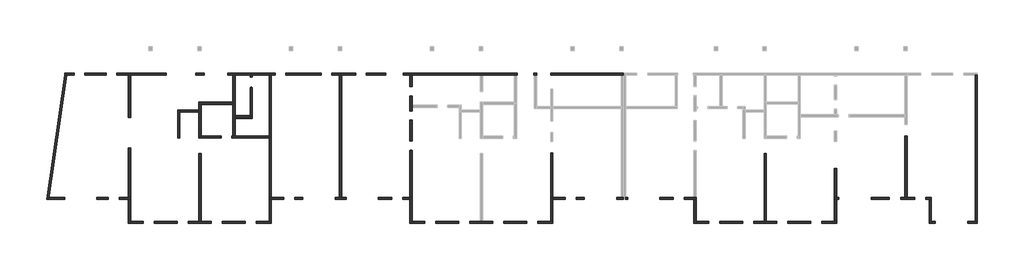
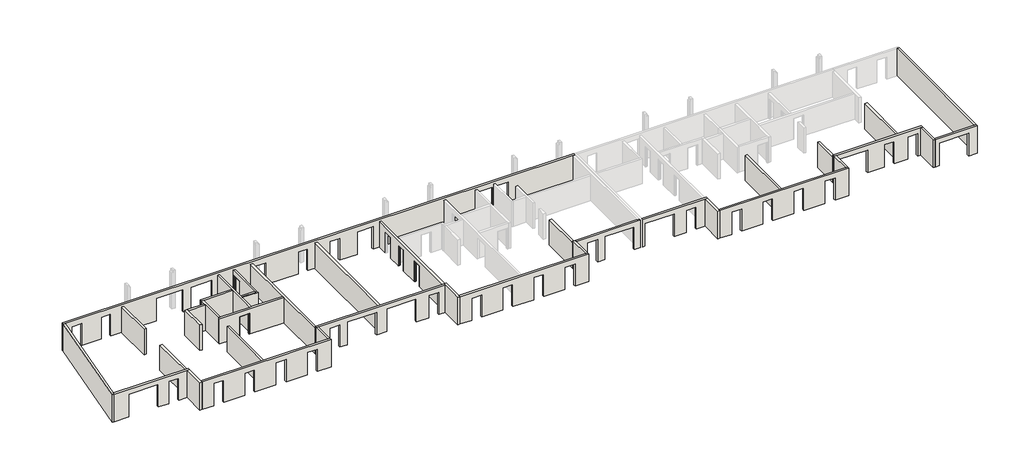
# One storey, part 1 of 2: 38 walls, 4 doors.
"""IFC4 building model written with IfcOpenShell, lengths in millimetres."""

import ifcopenshell
import ifcopenshell.guid

model = None  # the IFC model being written
_history = None  # IfcOwnerHistory: only IFC2X3 demands one
_inside = {}  # id of a spatial element -> (the spatial element, [elements in it])
_under = {}  # id of a project, library or spatial element -> (it, [spatial elements below it])
_declared = {}  # id of a project -> (the project, [libraries it declares])
_typed = {}  # id of a type object -> (the type object, [elements of that type])
_made_of = {}  # id of a material, layer set ... -> (it, [elements and type objects made of it])


def new_model(schema):
    """Start an empty IFC model of exactly this schema.

    Asked for "IFC4X3", IfcOpenShell would pick the latest addendum, in which some entities
    have other attributes; the version numbers below select the first issue.
    IFC2X3 requires an IfcOwnerHistory on every rooted entity: one is made here for all.
    """
    global model, _history
    if schema == "IFC4X3":
        model = ifcopenshell.file(schema_version=(4, 3, 0, 0))
    else:
        model = ifcopenshell.file(schema=schema)
    _inside.clear()
    _under.clear()
    _declared.clear()
    _typed.clear()
    _made_of.clear()
    _history = None
    if model.schema == "IFC2X3":
        org = make("IfcOrganization", Name="unknown")
        user = make(
            "IfcPersonAndOrganization",
            ThePerson=make("IfcPerson", FamilyName="unknown"),
            TheOrganization=org,
        )
        app = make(
            "IfcApplication",
            ApplicationDeveloper=org,
            Version="unknown",
            ApplicationFullName="unknown",
            ApplicationIdentifier="unknown",
        )
        _history = make(
            "IfcOwnerHistory",
            OwningUser=user,
            OwningApplication=app,
            ChangeAction="ADDED",
            CreationDate=0,
        )
    return model


def make(cls, **values):
    """One entity of the class cls with the attributes given. An attribute that is None is left unset."""
    return model.create_entity(
        cls, **{name: value for name, value in values.items() if value is not None}
    )


def rooted(cls, **values):
    """An entity with a GlobalId (a new one), such as an element, a storey or a relation."""
    return make(cls, GlobalId=ifcopenshell.guid.new(), OwnerHistory=_history, **values)


def si_unit(unit_type, name, prefix=None):
    """IfcSIUnit, for example si_unit("LENGTHUNIT", "METRE", prefix="MILLI")."""
    return make("IfcSIUnit", UnitType=unit_type, Prefix=prefix, Name=name)


def assignment(units):
    """IfcUnitAssignment: the units of a project."""
    return None if units is None else make("IfcUnitAssignment", Units=units)


def point(xyz):
    """IfcCartesianPoint."""
    return None if xyz is None else make("IfcCartesianPoint", Coordinates=xyz)


def direction(xyz):
    """IfcDirection."""
    return None if xyz is None else make("IfcDirection", DirectionRatios=xyz)


def frame(location, z_axis=None, x_axis=None):
    """IfcAxis2Placement3D, a coordinate frame: its origin and axes. An axis left out is left unset."""
    return make(
        "IfcAxis2Placement3D",
        Location=point(location),
        Axis=direction(z_axis),
        RefDirection=direction(x_axis),
    )


def origin():
    """The frame at (0, 0, 0) with its axes left unset."""
    return frame((0.0, 0.0, 0.0))


def origin_with_axes():
    """The frame at (0, 0, 0) with the z axis (0, 0, 1) and the x axis (1, 0, 0) written out."""
    return frame((0.0, 0.0, 0.0), z_axis=(0.0, 0.0, 1.0), x_axis=(1.0, 0.0, 0.0))


def place(relative_to, where):
    """IfcLocalPlacement: puts the frame where relative to a parent placement (None: the world)."""
    return make(
        "IfcLocalPlacement", PlacementRelTo=relative_to, RelativePlacement=where
    )


def context(
    kind, dimensions, precision=None, world=None, true_north=None, identifier=None
):
    """IfcGeometricRepresentationContext, for example the 3D "Model" context."""
    return make(
        "IfcGeometricRepresentationContext",
        ContextIdentifier=identifier,
        ContextType=kind,
        CoordinateSpaceDimension=dimensions,
        Precision=precision,
        WorldCoordinateSystem=world,
        TrueNorth=true_north,
    )


def project(units=None, contexts=None):
    """IfcProject with its units and contexts."""
    return rooted(
        "IfcProject",
        Name="project",
        RepresentationContexts=contexts,
        UnitsInContext=assignment(units),
    )


def spatial(cls, under=None, at=None, **own):
    """A site, building, storey or space (cls), placed at a placement, below another one or the project."""
    s = rooted(cls, ObjectPlacement=at, **own)
    if under is not None:
        _under.setdefault(under.id(), (under, []))[1].append(s)
    return s


def polyline(points):
    """IfcPolyline through the points."""
    return make("IfcPolyline", Points=[point(p) for p in points])


def outline(outer, holes=None, kind="AREA"):
    """IfcArbitraryClosedProfileDef: a profile drawn as a closed curve; with holes, ...WithVoids."""
    if holes is None:
        return make("IfcArbitraryClosedProfileDef", ProfileType=kind, OuterCurve=outer)
    return make(
        "IfcArbitraryProfileDefWithVoids",
        ProfileType=kind,
        OuterCurve=outer,
        InnerCurves=holes,
    )


def extrude(swept, where, along, depth):
    """IfcExtrudedAreaSolid: the profile swept, set in the frame where, extruded along a direction by depth."""
    return make(
        "IfcExtrudedAreaSolid",
        SweptArea=swept,
        Position=where,
        ExtrudedDirection=direction(along),
        Depth=depth,
    )


def faces_of(points, faces, orient=None, outer=None):
    """IfcFace entities. A face is a list of loops; a loop is a list of indices into points, from 0.

    orient and outer hold one flag for each loop. By default every Orientation is true, the
    first loop of a face is its IfcFaceOuterBound and the others are IfcFaceBound.
    """
    made = []
    for i, loops in enumerate(faces):
        bounds = []
        for j, loop in enumerate(loops):
            is_outer = j == 0 if outer is None else outer[i][j]
            bounds.append(
                make(
                    "IfcFaceOuterBound" if is_outer else "IfcFaceBound",
                    Bound=make("IfcPolyLoop", Polygon=[points[k] for k in loop]),
                    Orientation=True if orient is None else orient[i][j],
                )
            )
        made.append(make("IfcFace", Bounds=bounds))
    return made


def faceted_brep(points, faces, orient=None, outer=None, voids=None):
    """IfcFacetedBrep: a solid bounded by flat faces; with voids (closed shells), ...WithVoids."""
    shared = [point(p) for p in points]
    hull = make("IfcClosedShell", CfsFaces=faces_of(shared, faces, orient, outer))
    if voids is None:
        return make("IfcFacetedBrep", Outer=hull)
    return make(
        "IfcFacetedBrepWithVoids",
        Outer=hull,
        Voids=[
            make(cls, CfsFaces=faces_of(shared, fs, o, b)) for cls, fs, o, b in voids
        ],
    )


def shape(context_of_items, identifier, shape_type, items):
    """IfcShapeRepresentation: the items that make up one representation, for example the "Body"."""
    return make(
        "IfcShapeRepresentation",
        ContextOfItems=context_of_items,
        RepresentationIdentifier=identifier,
        RepresentationType=shape_type,
        Items=items,
    )


def source(mapping_origin, context_of_items, identifier, shape_type, items):
    """IfcRepresentationMap: a shape defined once, which mapped items show again and again."""
    return make(
        "IfcRepresentationMap",
        MappingOrigin=mapping_origin,
        MappedRepresentation=shape(context_of_items, identifier, shape_type, items),
    )


def transform(
    local_origin,
    x_axis=None,
    y_axis=None,
    z_axis=None,
    scale=None,
    scale2=None,
    scale3=None,
    uniform=True,
):
    """IfcCartesianTransformationOperator3D, or its non-uniform kind. x_axis, y_axis, z_axis: its Axis1, 2, 3."""
    if uniform:
        return make(
            "IfcCartesianTransformationOperator3D",
            Axis1=direction(x_axis),
            Axis2=direction(y_axis),
            LocalOrigin=point(local_origin),
            Scale=scale,
            Axis3=direction(z_axis),
        )
    return make(
        "IfcCartesianTransformationOperator3DnonUniform",
        Axis1=direction(x_axis),
        Axis2=direction(y_axis),
        LocalOrigin=point(local_origin),
        Scale=scale,
        Axis3=direction(z_axis),
        Scale2=scale2,
        Scale3=scale3,
    )


def mapped(mapping_source, mapping_target):
    """IfcMappedItem: shows the shape of a source again, moved by a transform."""
    return make(
        "IfcMappedItem", MappingSource=mapping_source, MappingTarget=mapping_target
    )


def made_of(thing, what):
    """Note that an element or type object is made of a material, layer set ...; save() writes the relation."""
    if what is not None:
        _made_of.setdefault(what.id(), (what, []))[1].append(thing)
    return thing


def element(
    cls,
    number,
    at=None,
    inside=None,
    cuts=None,
    type_object=None,
    material=None,
    context=None,
    identifier="Body",
    shape_type=None,
    held_by="IfcProductDefinitionShape",
    body=None,
    shapes=None,
    **own,
):
    """One element of the class cls, such as IfcWall. Its Tag is "e" and its number.

    at: its placement. inside: the storey or other place that contains it. cuts: it is an
    opening in that element (IfcRelVoidsElement). A single representation is given by context,
    identifier, shape_type and body (its items); several are given by shapes. held_by: the class
    of the entity that holds the representations. save() writes the other relations.
    """
    e = rooted(cls, Tag="e%d" % number, ObjectPlacement=at, **own)
    if body is not None:
        shapes = [shape(context, identifier, shape_type, body)]
    if shapes is not None:
        e.Representation = make(held_by, Representations=shapes)
    if inside is not None:
        _inside.setdefault(inside.id(), (inside, []))[1].append(e)
    if cuts is not None:
        rooted(
            "IfcRelVoidsElement", RelatingBuildingElement=cuts, RelatedOpeningElement=e
        )
    if type_object is not None:
        _typed.setdefault(type_object.id(), (type_object, []))[1].append(e)
    return made_of(e, material)


def aggregate(whole, parts):
    """IfcRelAggregates: a whole, such as a stair, and the parts it consists of."""
    return rooted("IfcRelAggregates", RelatingObject=whole, RelatedObjects=parts)


def save(model, path):
    """Write the relations noted so far, then the file.

    IfcRelAggregates (storeys below a building ...), IfcRelContainedInSpatialStructure (elements
    in a storey), IfcRelDefinesByType, IfcRelAssociatesMaterial and IfcRelDeclares: one each for
    every whole, place, type object, material and project.
    """
    for whole, parts in _under.values():
        aggregate(whole, parts)
    for where, things in _inside.values():
        rooted(
            "IfcRelContainedInSpatialStructure",
            RelatedElements=things,
            RelatingStructure=where,
        )
    for kind, things in _typed.values():
        rooted("IfcRelDefinesByType", RelatedObjects=things, RelatingType=kind)
    for what, things in _made_of.values():
        rooted("IfcRelAssociatesMaterial", RelatedObjects=things, RelatingMaterial=what)
    for by, libraries in _declared.values():
        rooted("IfcRelDeclares", RelatingContext=by, RelatedDefinitions=libraries)
    model.write(path)


def door_48b161e2(model_context):
    return source(origin(), model_context, "Body", "Brep", [
        faceted_brep([(391.8113433, 100.0, 0.0), (406.8113433, 100.0, 0.0), (406.8113433, -100.0, 0.0), (391.8113433, -100.0, 0.0), (391.8113433, -26.2, 0.0), (376.8113433, -26.2, 0.0), (376.8113433, 26.2, 0.0), (391.8113433, 26.2, 0.0), (391.8113433, 100.0, 2020.0), (-408.1886567, 100.0, 2020.0), (-408.1886567, 100.0, 0.0), (-423.1886567, 100.0, 0.0), (-423.1886567, 100.0, 2035.0), (406.8113433, 100.0, 2035.0), (406.8113433, -100.0, 2035.0), (-423.1886567, -100.0, 2035.0), (-423.1886567, -100.0, 0.0), (-408.1886567, -100.0, 0.0), (-408.1886567, -100.0, 2020.0), (391.8113433, -100.0, 2020.0), (391.8113433, -26.2, 2020.0), (-408.1886567, -26.2, 2020.0), (-408.1886567, -26.2, 0.0), (-393.1886567, -26.2, 0.0), (-393.1886567, -26.2, 2005.0), (376.8113433, -26.2, 2005.0), (376.8113433, 26.2, 2005.0), (-393.1886567, 26.2, 2005.0), (-393.1886567, 26.2, 0.0), (-408.1886567, 26.2, 0.0), (-408.1886567, 26.2, 2020.0), (391.8113433, 26.2, 2020.0)], [[[0, 1, 2, 3, 4, 5, 6, 7]], [[1, 0, 8, 9, 10, 11, 12, 13]], [[2, 1, 13, 14]], [[3, 2, 14, 15, 16, 17, 18, 19]], [[4, 3, 19, 20]], [[5, 4, 20, 21, 22, 23, 24, 25]], [[6, 5, 25, 26]], [[7, 6, 26, 27, 28, 29, 30, 31]], [[0, 7, 31, 8]], [[9, 30, 29, 10]], [[10, 29, 28, 23, 22, 17, 16, 11]], [[15, 12, 11, 16]], [[21, 18, 17, 22]], [[27, 24, 23, 28]], [[14, 13, 12, 15]], [[26, 25, 24, 27]], [[20, 19, 18, 21]], [[8, 31, 30, 9]]]),
    ])


def door_a0d7bfd5(model_context):
    return source(origin(), model_context, "Body", "Brep", [
        faceted_brep([(441.8113433, 90.0, 0.0), (456.8113433, 90.0, 0.0), (456.8113433, -90.0, 0.0), (441.8113433, -90.0, 0.0), (441.8113433, -26.2, 0.0), (426.8113433, -26.2, 0.0), (426.8113433, 26.2, 0.0), (441.8113433, 26.2, 0.0), (441.8113433, 90.0, 2020.0), (-458.1886567, 90.0, 2020.0), (-458.1886567, 90.0, 0.0), (-473.1886567, 90.0, 0.0), (-473.1886567, 90.0, 2035.0), (456.8113433, 90.0, 2035.0), (456.8113433, -90.0, 2035.0), (-473.1886567, -90.0, 2035.0), (-473.1886567, -90.0, 0.0), (-458.1886567, -90.0, 0.0), (-458.1886567, -90.0, 2020.0), (441.8113433, -90.0, 2020.0), (441.8113433, -26.2, 2020.0), (-458.1886567, -26.2, 2020.0), (-458.1886567, -26.2, 0.0), (-443.1886567, -26.2, 0.0), (-443.1886567, -26.2, 2005.0), (426.8113433, -26.2, 2005.0), (426.8113433, 26.2, 2005.0), (-443.1886567, 26.2, 2005.0), (-443.1886567, 26.2, 0.0), (-458.1886567, 26.2, 0.0), (-458.1886567, 26.2, 2020.0), (441.8113433, 26.2, 2020.0)], [[[0, 1, 2, 3, 4, 5, 6, 7]], [[1, 0, 8, 9, 10, 11, 12, 13]], [[2, 1, 13, 14]], [[3, 2, 14, 15, 16, 17, 18, 19]], [[4, 3, 19, 20]], [[5, 4, 20, 21, 22, 23, 24, 25]], [[6, 5, 25, 26]], [[7, 6, 26, 27, 28, 29, 30, 31]], [[0, 7, 31, 8]], [[9, 30, 29, 10]], [[10, 29, 28, 23, 22, 17, 16, 11]], [[15, 12, 11, 16]], [[21, 18, 17, 22]], [[27, 24, 23, 28]], [[14, 13, 12, 15]], [[26, 25, 24, 27]], [[20, 19, 18, 21]], [[8, 31, 30, 9]]]),
    ])


model = new_model("IFC4")

# Units and contexts
model_context = context("Model", 3, world=origin())
ifc_project = project(units=[si_unit("LENGTHUNIT", "METRE", prefix="MILLI")], contexts=[model_context])

# Site, building, storey
site = spatial("IfcSite", under=ifc_project)
building = spatial("IfcBuilding", under=site)
storey = spatial("IfcBuildingStorey", under=building, Name="Niv RdC-F", Elevation=0.0)

# Doors
placement = place(None, origin())
door_shape = door_48b161e2(model_context)
element("IfcDoor", 1, ObjectType="FREYS HUISSERIE A BANCHER : FREYS 83*2.035", at=placement, inside=storey, context=model_context, shape_type="MappedRepresentation", body=[
    mapped(door_shape, transform((-535.4687207, 2788.1542132, 0.0), x_axis=(0.0, -1.0, 0.0), y_axis=(1.0, 0.0, 0.0), z_axis=(0.0, 0.0, 1.0))),
])
element("IfcDoor", 2, ObjectType="FREYS HUISSERIE A BANCHER : FREYS 83*2.035", at=placement, inside=storey, context=model_context, shape_type="MappedRepresentation", body=[
    mapped(door_shape, transform((-535.4687207, 211.1107168, 0.0), x_axis=(0.0, -1.0, 0.0), y_axis=(1.0, 0.0, 0.0), z_axis=(0.0, 0.0, 1.0))),
])
door_2_shape = door_a0d7bfd5(model_context)
element("IfcDoor", 3, ObjectType="FREYS HUISSERIE A BANCHER : FREYS 93*2.035", at=placement, inside=storey, context=model_context, shape_type="MappedRepresentation", body=[
    mapped(door_2_shape, transform((-16267.2536997, 956.3702418, 0.0), x_axis=(1.0, 0.0, 0.0), y_axis=(0.0, 1.0, 0.0), z_axis=(0.0, 0.0, 1.0))),
])
element("IfcDoor", 4, ObjectType="FREYS HUISSERIE A BANCHER : FREYS 93*2.035", at=placement, inside=storey, context=model_context, shape_type="MappedRepresentation", body=[
    mapped(door_2_shape, transform((-14155.4977868, 5649.707503, 0.0), x_axis=(0.0, 1.0, 0.0), y_axis=(-1.0, 0.0, 0.0), z_axis=(0.0, 0.0, 1.0))),
])

# Walls
element("IfcWall", 5, ObjectType="FREYS voile BA C25/30 ep=20 INT", at=placement, inside=storey, context=model_context, shape_type="SweptSolid", body=[
    extrude(outline(polyline([(29564.5058748, -6223.682253), (29564.5058748, -433.6571301), (29764.5058748, -433.6571301), (29764.5058748, -6223.682253), (29564.5058748, -6223.682253)])), origin_with_axes(), (0.0, 0.0, 1.0), 2500.0),
])
element("IfcWall", 6, ObjectType="FREYS voile BA C25/30 ep=20 INT", at=placement, inside=storey, context=model_context, shape_type="SweptSolid", body=[
    extrude(outline(polyline([(41564.5566776, -4173.6837353), (41564.5566776, 1056.3989108), (41764.5566776, 1056.3989108), (41764.5566776, -4173.6837353), (41564.5566776, -4173.6837353)])), origin_with_axes(), (0.0, 0.0, 1.0), 2500.0),
])
element("IfcWall", 7, ObjectType="FREYS voile BA C25/30 ep=20 INT", at=placement, inside=storey, context=model_context, shape_type="SweptSolid", body=[
    extrude(outline(polyline([(-24635.4687207, 2606.324852), (-24635.4687207, 6246.3702418), (-24435.4687207, 6246.3702418), (-24435.4687207, 2606.324852), (-24635.4687207, 2606.324852)])), origin_with_axes(), (0.0, 0.0, 1.0), 2500.0),
])
element("IfcWall", 8, ObjectType="FREYS voile BA C25/30 ep=18 EXT", at=placement, inside=storey, context=model_context, shape_type="Brep", body=[
    faceted_brep([(-30063.034009, 6246.3702418, 0.0), (-31609.8766701, -4353.6571231, 0.0), (-31609.8766701, -4353.6571231, 2700.0), (-30063.034009, 6246.3702418, 2700.0), (-29881.1275521, 6246.3702418, 0.0), (-29881.1275521, 6246.3702418, 2700.0), (-31401.7031415, -4173.6571231, 2700.0), (-31427.9702133, -4353.6571231, 2700.0), (-31427.9702133, -4353.6571231, 0.0), (-31401.7031415, -4173.6571231, 0.0)], [[[0, 1, 2, 3]], [[4, 5, 6, 7, 8, 9]], [[1, 0, 4, 9, 8]], [[3, 2, 7, 6, 5]], [[0, 3, 5, 4]], [[2, 1, 8, 7]]]),
])
element("IfcWall", 9, ObjectType="FREYS voile BA C25/30 ep=18 EXT", at=placement, inside=storey, context=model_context, shape_type="Brep", body=[
    faceted_brep([(-27315.4431946, -4353.6571231, 2230.0), (-27315.4431946, -4353.6571231, 0.0), (-26355.4431946, -4353.6571231, 0.0), (-26355.4431946, -4353.6571231, 2180.0), (-25415.4431946, -4353.6571231, 2180.0), (-25415.4431946, -4353.6571231, 0.0), (-24635.4687207, -4353.6571231, 0.0), (-24435.4687207, -4353.6571231, 0.0), (-24435.4687207, -4353.6571231, 2700.0), (-24635.4687207, -4353.6571231, 2700.0), (-31427.9702133, -4353.6571231, 2700.0), (-31427.9702133, -4353.6571231, 0.0), (-30055.4431946, -4353.6571231, 0.0), (-30055.4431946, -4353.6571231, 2230.0), (-26355.4431946, -4173.6571231, 0.0), (-27315.4431946, -4173.6571231, 0.0), (-27315.4431946, -4173.6571231, 2230.0), (-30055.4431946, -4173.6571231, 2230.0), (-30055.4431946, -4173.6571231, 0.0), (-31401.7031415, -4173.6571231, 0.0), (-31401.7031415, -4173.6571231, 2700.0), (-24435.4687207, -4173.6571231, 2700.0), (-24435.4687207, -4173.6571231, 2500.0), (-24435.4687207, -4173.6571231, 0.0), (-24635.4687207, -4173.6571231, 0.0), (-25415.4431946, -4173.6571231, 0.0), (-25415.4431946, -4173.6571231, 2180.0), (-26355.4431946, -4173.6571231, 2180.0)], [[[0, 1, 2, 3, 4, 5, 6, 7, 8, 9, 10, 11, 12, 13]], [[14, 15, 16, 17, 18, 19, 20, 21, 22, 23, 24, 25, 26, 27]], [[12, 11, 19, 18]], [[2, 1, 15, 14]], [[23, 7, 6, 5, 25, 24]], [[10, 9, 8, 21, 20]], [[11, 10, 20, 19]], [[27, 3, 2, 14]], [[4, 26, 25, 5]], [[3, 27, 26, 4]], [[18, 17, 13, 12]], [[16, 15, 1, 0]], [[17, 16, 0, 13]], [[7, 23, 22, 21, 8]]]),
])
element("IfcWall", 10, ObjectType="FREYS voile BA C25/30 ep=18 EXT", at=placement, inside=storey, context=model_context, shape_type="Brep", body=[
    faceted_brep([(-12435.4687207, -6403.661173, 2700.0), (-24435.4687207, -6403.661173, 2700.0), (-24435.4687207, -6403.661173, 0.0), (-23357.0301017, -6403.661173, 0.0), (-23357.0301017, -6403.661173, 2180.0), (-22417.0301017, -6403.661173, 2180.0), (-22417.0301017, -6403.661173, 0.0), (-20457.0301016, -6403.661173, 0.0), (-20457.0301016, -6403.661173, 2180.0), (-19517.0301016, -6403.661173, 2180.0), (-19517.0301016, -6403.661173, 0.0), (-17557.0301112, -6403.661173, 0.0), (-17557.0301112, -6403.661173, 2180.0), (-16617.0301112, -6403.661173, 2180.0), (-16617.0301112, -6403.661173, 0.0), (-14657.0301131, -6403.661173, 0.0), (-14657.0301131, -6403.661173, 2180.0), (-13717.0301131, -6403.661173, 2180.0), (-13717.0301131, -6403.661173, 0.0), (-12435.4687207, -6403.661173, 0.0), (-24435.4687207, -6223.661173, 2700.0), (-12635.4687207, -6223.661173, 2700.0), (-12435.4687207, -6223.661173, 2700.0), (-12435.4687207, -6223.661173, 0.0), (-12635.4687207, -6223.661173, 0.0), (-13717.0301131, -6223.661173, 0.0), (-13717.0301131, -6223.661173, 2180.0), (-14657.0301131, -6223.661173, 2180.0), (-14657.0301131, -6223.661173, 0.0), (-16617.0301112, -6223.661173, 0.0), (-16617.0301112, -6223.661173, 2180.0), (-17557.0301112, -6223.661173, 2180.0), (-17557.0301112, -6223.661173, 0.0), (-18435.4942293, -6223.661173, 0.0), (-18635.4942293, -6223.661173, 0.0), (-19517.0301016, -6223.661173, 0.0), (-19517.0301016, -6223.661173, 2180.0), (-20457.0301016, -6223.661173, 2180.0), (-20457.0301016, -6223.661173, 0.0), (-22417.0301017, -6223.661173, 0.0), (-22417.0301017, -6223.661173, 2180.0), (-23357.0301017, -6223.661173, 2180.0), (-23357.0301017, -6223.661173, 0.0), (-24435.4687207, -6223.661173, 0.0)], [[[0, 1, 2, 3, 4, 5, 6, 7, 8, 9, 10, 11, 12, 13, 14, 15, 16, 17, 18, 19]], [[20, 21, 22, 23, 24, 25, 26, 27, 28, 29, 30, 31, 32, 33, 34, 35, 36, 37, 38, 39, 40, 41, 42, 43]], [[2, 43, 42, 3]], [[23, 19, 18, 25, 24]], [[6, 39, 38, 7]], [[10, 35, 34, 33, 32, 11]], [[14, 29, 28, 15]], [[1, 0, 22, 21, 20]], [[2, 1, 20, 43]], [[0, 19, 23, 22]], [[5, 40, 39, 6]], [[41, 4, 3, 42]], [[40, 5, 4, 41]], [[9, 36, 35, 10]], [[37, 8, 7, 38]], [[36, 9, 8, 37]], [[31, 12, 11, 32]], [[13, 30, 29, 14]], [[12, 31, 30, 13]], [[17, 26, 25, 18]], [[27, 16, 15, 28]], [[26, 17, 16, 27]]]),
])
element("IfcWall", 11, ObjectType="FREYS voile BA C25/30 ep=18 EXT", at=placement, inside=storey, context=model_context, shape_type="Brep", body=[
    faceted_brep([(-10445.443697, -4353.6823111, 0.0), (-9755.4434502, -4353.6823111, 0.0), (-9755.4434502, -4353.6823111, 2230.0), (-7015.4434502, -4353.6823111, 2230.0), (-7015.4434502, -4353.6823111, 0.0), (-6055.4431946, -4353.6823111, 0.0), (-6055.4431946, -4353.6823111, 2230.0), (-3315.4431946, -4353.6823111, 2230.0), (-3315.4431946, -4353.6823111, 0.0), (-2175.4432068, -4353.6823111, 0.0), (-2175.4432068, -4353.6823111, 2180.0), (-1235.4432068, -4353.6823111, 2180.0), (-1235.4432068, -4353.6823111, 0.0), (-635.4687207, -4353.6823111, 0.0), (-635.4687207, -4353.6823111, 2700.0), (-12435.4687207, -4353.6823111, 2700.0), (-12635.4687207, -4353.6823111, 2700.0), (-12635.4687207, -4353.6823111, 0.0), (-12435.4687207, -4353.6823111, 0.0), (-11385.443697, -4353.6823111, 0.0), (-11385.443697, -4353.6823111, 2180.0), (-10445.443697, -4353.6823111, 2180.0), (-9755.4434502, -4173.6823111, 2230.0), (-9755.4434502, -4173.6823111, 0.0), (-10445.443697, -4173.6823111, 0.0), (-10445.443697, -4173.6823111, 2180.0), (-11385.443697, -4173.6823111, 2180.0), (-11385.443697, -4173.6823111, 0.0), (-12435.4687207, -4173.6823111, 0.0), (-12635.4687207, -4173.6823111, 0.0), (-12635.4687207, -4173.6823111, 2500.0), (-12635.4687207, -4173.6823111, 2700.0), (-635.4687207, -4173.6823111, 2700.0), (-635.4687207, -4173.6823111, 0.0), (-1235.4432068, -4173.6823111, 0.0), (-1235.4432068, -4173.6823111, 2180.0), (-2175.4432068, -4173.6823111, 2180.0), (-2175.4432068, -4173.6823111, 0.0), (-3315.4431946, -4173.6823111, 0.0), (-3315.4431946, -4173.6823111, 2230.0), (-6055.4431946, -4173.6823111, 2230.0), (-6055.4431946, -4173.6823111, 0.0), (-6435.4433224, -4173.6823111, 0.0), (-6635.4433224, -4173.6823111, 0.0), (-7015.4434502, -4173.6823111, 0.0), (-7015.4434502, -4173.6823111, 2230.0)], [[[0, 1, 2, 3, 4, 5, 6, 7, 8, 9, 10, 11, 12, 13, 14, 15, 16, 17, 18, 19, 20, 21]], [[22, 23, 24, 25, 26, 27, 28, 29, 30, 31, 32, 33, 34, 35, 36, 37, 38, 39, 40, 41, 42, 43, 44, 45]], [[38, 37, 9, 8]], [[24, 23, 1, 0]], [[44, 43, 42, 41, 5, 4]], [[33, 13, 12, 34]], [[19, 18, 17, 29, 28, 27]], [[16, 15, 14, 32, 31]], [[26, 20, 19, 27]], [[21, 25, 24, 0]], [[20, 26, 25, 21]], [[36, 10, 9, 37]], [[11, 35, 34, 12]], [[10, 36, 35, 11]], [[8, 7, 39, 38]], [[6, 5, 41, 40]], [[7, 6, 40, 39]], [[4, 3, 45, 44]], [[2, 1, 23, 22]], [[3, 2, 22, 45]], [[16, 31, 30, 29, 17]], [[13, 33, 32, 14]]]),
])
element("IfcWall", 12, ObjectType="FREYS voile BA C25/30 ep=18 EXT", at=placement, inside=storey, context=model_context, shape_type="Brep", body=[
    faceted_brep([(11564.5281637, -6403.682546, 2700.0), (-435.4687207, -6403.682546, 2700.0), (-435.4687207, -6403.682546, 0.0), (642.9698985, -6403.682546, 0.0), (642.9698985, -6403.682546, 2180.0), (1582.9698985, -6403.682546, 2180.0), (1582.9698985, -6403.682546, 0.0), (3542.9698986, -6403.682546, 0.0), (3542.9698986, -6403.682546, 2180.0), (4482.9698986, -6403.682546, 2180.0), (4482.9698986, -6403.682546, 0.0), (6442.9698987, -6403.682546, 0.0), (6442.9698987, -6403.682546, 2180.0), (7382.9698987, -6403.682546, 2180.0), (7382.9698987, -6403.682546, 0.0), (9342.9698988, -6403.682546, 0.0), (9342.9698988, -6403.682546, 2180.0), (10282.9698988, -6403.682546, 2180.0), (10282.9698988, -6403.682546, 0.0), (11564.5281637, -6403.682546, 0.0), (-435.4687207, -6223.682546, 2700.0), (11364.5281637, -6223.682546, 2700.0), (11564.5281637, -6223.682546, 2700.0), (11564.5281637, -6223.682546, 0.0), (11364.5281637, -6223.682546, 0.0), (10282.9698988, -6223.682546, 0.0), (10282.9698988, -6223.682546, 2180.0), (9342.9698988, -6223.682546, 2180.0), (9342.9698988, -6223.682546, 0.0), (7382.9698987, -6223.682546, 0.0), (7382.9698987, -6223.682546, 2180.0), (6442.9698987, -6223.682546, 2180.0), (6442.9698987, -6223.682546, 0.0), (5564.5312777, -6223.682546, 0.0), (5364.5312777, -6223.682546, 0.0), (4482.9698986, -6223.682546, 0.0), (4482.9698986, -6223.682546, 2180.0), (3542.9698986, -6223.682546, 2180.0), (3542.9698986, -6223.682546, 0.0), (1582.9698985, -6223.682546, 0.0), (1582.9698985, -6223.682546, 2180.0), (642.9698985, -6223.682546, 2180.0), (642.9698985, -6223.682546, 0.0), (-435.4687207, -6223.682546, 0.0)], [[[0, 1, 2, 3, 4, 5, 6, 7, 8, 9, 10, 11, 12, 13, 14, 15, 16, 17, 18, 19]], [[20, 21, 22, 23, 24, 25, 26, 27, 28, 29, 30, 31, 32, 33, 34, 35, 36, 37, 38, 39, 40, 41, 42, 43]], [[23, 19, 18, 25, 24]], [[3, 2, 43, 42]], [[6, 39, 38, 7]], [[10, 35, 34, 33, 32, 11]], [[14, 29, 28, 15]], [[1, 0, 22, 21, 20]], [[0, 19, 23, 22]], [[41, 4, 3, 42]], [[5, 40, 39, 6]], [[4, 41, 40, 5]], [[37, 8, 7, 38]], [[9, 36, 35, 10]], [[8, 37, 36, 9]], [[31, 12, 11, 32]], [[13, 30, 29, 14]], [[12, 31, 30, 13]], [[27, 16, 15, 28]], [[17, 26, 25, 18]], [[16, 27, 26, 17]], [[2, 1, 20, 43]]]),
])
element("IfcWall", 13, ObjectType="FREYS voile BA C25/30 ep=18 EXT", at=placement, inside=storey, context=model_context, shape_type="Brep", body=[
    faceted_brep([(16984.5565498, -4353.6825564, 2230.0), (16984.5565498, -4353.6825564, 0.0), (17554.5566776, -4353.6825564, 0.0), (17554.5566776, -4353.6825564, 2700.0), (11564.5281637, -4353.6825564, 2700.0), (11564.5281637, -4353.6825564, 0.0), (12614.5563031, -4353.6825564, 0.0), (12614.5563031, -4353.6825564, 2180.0), (13554.5563031, -4353.6825564, 2180.0), (13554.5563031, -4353.6825564, 0.0), (14244.5565498, -4353.6825564, 0.0), (14244.5565498, -4353.6825564, 2230.0), (17554.5566776, -4173.6825564, 0.0), (17374.5566776, -4173.6825564, 0.0), (16984.5565498, -4173.6825564, 0.0), (16984.5565498, -4173.6825564, 2230.0), (14244.5565498, -4173.6825564, 2230.0), (14244.5565498, -4173.6825564, 0.0), (13554.5563031, -4173.6825564, 0.0), (13554.5563031, -4173.6825564, 2180.0), (12614.5563031, -4173.6825564, 2180.0), (12614.5563031, -4173.6825564, 0.0), (11564.5281637, -4173.6825564, 0.0), (11564.5281637, -4173.6825564, 2700.0), (17374.5566776, -4173.6825564, 2700.0), (17554.5566776, -4173.6825564, 2700.0)], [[[0, 1, 2, 3, 4, 5, 6, 7, 8, 9, 10, 11]], [[12, 13, 14, 15, 16, 17, 18, 19, 20, 21, 22, 23, 24, 25]], [[10, 9, 18, 17]], [[2, 1, 14, 13, 12]], [[5, 22, 21, 6]], [[4, 3, 25, 24, 23]], [[20, 7, 6, 21]], [[8, 19, 18, 9]], [[7, 20, 19, 8]], [[17, 16, 11, 10]], [[15, 14, 1, 0]], [[16, 15, 0, 11]], [[3, 2, 12, 25]], [[5, 4, 23, 22]]]),
])
element("IfcWall", 14, ObjectType="FREYS voile BA C25/30 ep=18 EXT", at=placement, inside=storey, context=model_context, shape_type="Brep", body=[
    faceted_brep([(17774.5566776, -4353.682553, 0.0), (17944.5617199, -4353.682553, 0.0), (17944.5617199, -4353.682553, 2230.0), (20684.5617199, -4353.682553, 2230.0), (20684.5617199, -4353.682553, 0.0), (21824.5664474, -4353.682553, 0.0), (21824.5664474, -4353.682553, 2180.0), (22764.5664474, -4353.682553, 2180.0), (22764.5664474, -4353.682553, 0.0), (23564.5564317, -4353.682553, 0.0), (23764.5564317, -4353.682553, 0.0), (23764.5564317, -4353.682553, 2700.0), (23564.5564317, -4353.682553, 2700.0), (17774.5566776, -4353.682553, 2700.0), (17944.5617199, -4173.682553, 2230.0), (17944.5617199, -4173.682553, 0.0), (17774.5566776, -4173.682553, 0.0), (17774.5566776, -4173.682553, 2700.0), (23764.5564317, -4173.682553, 2700.0), (23764.5564317, -4173.682553, 0.0), (22764.5664474, -4173.682553, 0.0), (22764.5664474, -4173.682553, 2180.0), (21824.5664474, -4173.682553, 2180.0), (21824.5664474, -4173.682553, 0.0), (20684.5617199, -4173.682553, 0.0), (20684.5617199, -4173.682553, 2230.0)], [[[0, 1, 2, 3, 4, 5, 6, 7, 8, 9, 10, 11, 12, 13]], [[14, 15, 16, 17, 18, 19, 20, 21, 22, 23, 24, 25]], [[24, 23, 5, 4]], [[16, 15, 1, 0]], [[19, 10, 9, 8, 20]], [[13, 12, 11, 18, 17]], [[0, 13, 17, 16]], [[22, 6, 5, 23]], [[7, 21, 20, 8]], [[6, 22, 21, 7]], [[4, 3, 25, 24]], [[2, 1, 15, 14]], [[3, 2, 14, 25]], [[11, 10, 19, 18]]]),
])
element("IfcWall", 15, ObjectType="FREYS voile BA C25/30 ep=18 EXT", at=placement, inside=storey, context=model_context, shape_type="Brep", body=[
    faceted_brep([(35764.5312786, -6403.682253, 2700.0), (23764.5564317, -6403.682253, 2700.0), (23764.5564317, -6403.682253, 0.0), (24842.9698985, -6403.682253, 0.0), (24842.9698985, -6403.682253, 2180.0), (25782.9698985, -6403.682253, 2180.0), (25782.9698985, -6403.682253, 0.0), (27742.9698986, -6403.682253, 0.0), (27742.9698986, -6403.682253, 2180.0), (28682.9698986, -6403.682253, 2180.0), (28682.9698986, -6403.682253, 0.0), (30642.9698987, -6403.682253, 0.0), (30642.9698987, -6403.682253, 2180.0), (31582.9698987, -6403.682253, 2180.0), (31582.9698987, -6403.682253, 0.0), (33542.9698988, -6403.682253, 0.0), (33542.9698988, -6403.682253, 2180.0), (34482.9698988, -6403.682253, 2180.0), (34482.9698988, -6403.682253, 0.0), (35764.5312786, -6403.682253, 0.0), (23764.5564317, -6223.682253, 2700.0), (35564.5312786, -6223.682253, 2700.0), (35764.5312786, -6223.682253, 2700.0), (35764.5312786, -6223.682253, 0.0), (35564.5312786, -6223.682253, 0.0), (34482.9698988, -6223.682253, 0.0), (34482.9698988, -6223.682253, 2180.0), (33542.9698988, -6223.682253, 2180.0), (33542.9698988, -6223.682253, 0.0), (31582.9698987, -6223.682253, 0.0), (31582.9698987, -6223.682253, 2180.0), (30642.9698987, -6223.682253, 2180.0), (30642.9698987, -6223.682253, 0.0), (29764.5058748, -6223.682253, 0.0), (29564.5058748, -6223.682253, 0.0), (28682.9698986, -6223.682253, 0.0), (28682.9698986, -6223.682253, 2180.0), (27742.9698986, -6223.682253, 2180.0), (27742.9698986, -6223.682253, 0.0), (25782.9698985, -6223.682253, 0.0), (25782.9698985, -6223.682253, 2180.0), (24842.9698985, -6223.682253, 2180.0), (24842.9698985, -6223.682253, 0.0), (23764.5564317, -6223.682253, 0.0)], [[[0, 1, 2, 3, 4, 5, 6, 7, 8, 9, 10, 11, 12, 13, 14, 15, 16, 17, 18, 19]], [[20, 21, 22, 23, 24, 25, 26, 27, 28, 29, 30, 31, 32, 33, 34, 35, 36, 37, 38, 39, 40, 41, 42, 43]], [[2, 43, 42, 3]], [[23, 19, 18, 25, 24]], [[6, 39, 38, 7]], [[10, 35, 34, 33, 32, 11]], [[14, 29, 28, 15]], [[1, 0, 22, 21, 20]], [[2, 1, 20, 43]], [[0, 19, 23, 22]], [[41, 4, 3, 42]], [[5, 40, 39, 6]], [[4, 41, 40, 5]], [[9, 36, 35, 10]], [[37, 8, 7, 38]], [[36, 9, 8, 37]], [[13, 30, 29, 14]], [[31, 12, 11, 32]], [[30, 13, 12, 31]], [[27, 16, 15, 28]], [[17, 26, 25, 18]], [[16, 27, 26, 17]]]),
])
element("IfcWall", 16, ObjectType="FREYS voile BA C25/30 ep=18 EXT", at=placement, inside=storey, context=model_context, shape_type="Brep", body=[
    faceted_brep([(43804.5564412, -4353.6837353, 2700.0), (43624.5564412, -4353.6837353, 2700.0), (35764.5312786, -4353.6837353, 2700.0), (35564.5312786, -4353.6837353, 2700.0), (35564.5312786, -4353.6837353, 0.0), (35764.5312786, -4353.6837353, 0.0), (35944.5566776, -4353.6837353, 0.0), (35944.5566776, -4353.6837353, 2230.0), (38684.5566776, -4353.6837353, 2230.0), (38684.5566776, -4353.6837353, 0.0), (40254.5566776, -4353.6837353, 0.0), (40254.5566776, -4353.6837353, 2180.0), (41194.5566776, -4353.6837353, 2180.0), (41194.5566776, -4353.6837353, 0.0), (42407.3677202, -4353.6837353, 0.0), (42407.3677202, -4353.6837353, 2180.0), (43347.3677202, -4353.6837353, 2180.0), (43347.3677202, -4353.6837353, 0.0), (43624.5564412, -4353.6837353, 0.0), (43804.5564412, -4353.6837353, 0.0), (35564.5312786, -4173.6837353, 2700.0), (43804.5564412, -4173.6837353, 2700.0), (43804.5564412, -4173.6837353, 0.0), (43347.3677202, -4173.6837353, 0.0), (43347.3677202, -4173.6837353, 2180.0), (42407.3677202, -4173.6837353, 2180.0), (42407.3677202, -4173.6837353, 0.0), (41764.5566776, -4173.6837353, 0.0), (41564.5566776, -4173.6837353, 0.0), (41194.5566776, -4173.6837353, 0.0), (41194.5566776, -4173.6837353, 2180.0), (40254.5566776, -4173.6837353, 2180.0), (40254.5566776, -4173.6837353, 0.0), (38684.5566776, -4173.6837353, 0.0), (38684.5566776, -4173.6837353, 2230.0), (35944.5566776, -4173.6837353, 2230.0), (35944.5566776, -4173.6837353, 0.0), (35564.5312786, -4173.6837353, 0.0)], [[[0, 1, 2, 3, 4, 5, 6, 7, 8, 9, 10, 11, 12, 13, 14, 15, 16, 17, 18, 19]], [[20, 21, 22, 23, 24, 25, 26, 27, 28, 29, 30, 31, 32, 33, 34, 35, 36, 37]], [[22, 19, 18, 17, 23]], [[32, 10, 9, 33]], [[13, 29, 28, 27, 26, 14]], [[4, 37, 36, 6, 5]], [[3, 2, 1, 0, 21, 20]], [[0, 19, 22, 21]], [[31, 11, 10, 32]], [[12, 30, 29, 13]], [[11, 31, 30, 12]], [[25, 15, 14, 26]], [[16, 24, 23, 17]], [[15, 25, 24, 16]], [[4, 3, 20, 37]], [[35, 7, 6, 36]], [[8, 34, 33, 9]], [[7, 35, 34, 8]]]),
])
element("IfcWall", 17, ObjectType="FREYS voile BA C25/30 ep=18 EXT", at=placement, inside=storey, context=model_context, shape_type="Brep", body=[
    faceted_brep([(43624.5564412, -4353.6837353, 0.0), (43624.5564412, -6403.7079703, 0.0), (43624.5564412, -6403.7079703, 2700.0), (43624.5564412, -4353.6837353, 2700.0), (43804.5564412, -4353.6837353, 0.0), (43804.5564412, -4353.6837353, 2700.0), (43804.5564412, -6223.7079703, 2700.0), (43804.5564412, -6403.7079703, 2700.0), (43804.5564412, -6403.7079703, 0.0), (43804.5564412, -6223.7079703, 0.0)], [[[0, 1, 2, 3]], [[4, 5, 6, 7, 8, 9]], [[1, 0, 4, 9, 8]], [[3, 2, 7, 6, 5]], [[0, 3, 5, 4]], [[2, 1, 8, 7]]]),
])
element("IfcWall", 18, ObjectType="FREYS voile BA C25/30 ep=18 EXT", at=placement, inside=storey, context=model_context, shape_type="Brep", body=[
    faceted_brep([(46906.0231852, -6403.7079703, 2230.0), (46906.0231852, -6403.7079703, 0.0), (47734.5312792, -6403.7079703, 0.0), (47734.5312792, -6403.7079703, 2700.0), (43804.5564412, -6403.7079703, 2700.0), (43804.5564412, -6403.7079703, 0.0), (44166.0231852, -6403.7079703, 0.0), (44166.0231852, -6403.7079703, 2230.0), (47734.5312792, -6223.7079703, 0.0), (47554.5312792, -6223.7079703, 0.0), (46906.0231852, -6223.7079703, 0.0), (46906.0231852, -6223.7079703, 2230.0), (44166.0231852, -6223.7079703, 2230.0), (44166.0231852, -6223.7079703, 0.0), (43804.5564412, -6223.7079703, 0.0), (43804.5564412, -6223.7079703, 2700.0), (47554.5312792, -6223.7079703, 2700.0), (47734.5312792, -6223.7079703, 2700.0)], [[[0, 1, 2, 3, 4, 5, 6, 7]], [[8, 9, 10, 11, 12, 13, 14, 15, 16, 17]], [[6, 5, 14, 13]], [[2, 1, 10, 9, 8]], [[4, 3, 17, 16, 15]], [[5, 4, 15, 14]], [[3, 2, 8, 17]], [[13, 12, 7, 6]], [[11, 10, 1, 0]], [[12, 11, 0, 7]]]),
])
element("IfcWall", 19, ObjectType="FREYS voile BA C25/30 ep=18 EXT", at=placement, inside=storey, context=model_context, shape_type="Brep", body=[
    faceted_brep([(9922.6226054, 6246.3702418, 0.0), (9984.5266073, 6246.3702418, 0.0), (10164.5281637, 6246.3702418, 0.0), (10164.5281637, 6246.3702418, 2210.0), (11364.5281637, 6246.3702418, 2210.0), (11364.5281637, 6246.3702418, 0.0), (17374.5566776, 6246.3702418, 0.0), (17554.5566776, 6246.3702418, 0.0), (17554.5566776, 6246.3702418, 2700.0), (17374.5566776, 6246.3702418, 2700.0), (-29881.1275521, 6246.3702418, 2700.0), (-30063.034009, 6246.3702418, 2700.0), (-30063.034009, 6246.3702418, 0.0), (-29881.1275521, 6246.3702418, 0.0), (-29245.4669599, 6246.3702418, 0.0), (-29245.4669599, 6246.3702418, 2150.0), (-28345.4669599, 6246.3702418, 2150.0), (-28345.4669599, 6246.3702418, 0.0), (-26525.4677546, 6246.3702418, 0.0), (-26525.4677546, 6246.3702418, 2150.0), (-25625.4677546, 6246.3702418, 2150.0), (-25625.4677546, 6246.3702418, 0.0), (-24635.4687207, 6246.3702418, 0.0), (-24435.4687207, 6246.3702418, 0.0), (-21395.4687207, 6246.3702418, 0.0), (-21395.4687207, 6246.3702418, 2220.0), (-18875.4687207, 6246.3702418, 2220.0), (-18875.4687207, 6246.3702418, 0.0), (-18175.4687207, 6246.3702418, 0.0), (-18175.4687207, 6246.3702418, 2180.0), (-16175.4687207, 6246.3702418, 2180.0), (-16175.4687207, 6246.3702418, 0.0), (-15715.4423564, 6246.3702418, 0.0), (-15535.4423564, 6246.3702418, 0.0), (-14245.4977868, 6246.3702418, 0.0), (-14065.4977868, 6246.3702418, 0.0), (-12635.4687207, 6246.3702418, 0.0), (-12435.4687207, 6246.3702418, 0.0), (-12115.4687207, 6246.3702418, 0.0), (-12115.4687207, 6246.3702418, 2150.0), (-11215.4687207, 6246.3702418, 2150.0), (-11215.4687207, 6246.3702418, 0.0), (-8195.4687207, 6246.3702418, 0.0), (-8195.4687207, 6246.3702418, 2150.0), (-7295.4687207, 6246.3702418, 2150.0), (-7295.4687207, 6246.3702418, 0.0), (-5235.4687207, 6246.3702418, 0.0), (-5235.4687207, 6246.3702418, 2150.0), (-4335.4687207, 6246.3702418, 2150.0), (-4335.4687207, 6246.3702418, 0.0), (-2705.4687207, 6246.3702418, 0.0), (-2705.4687207, 6246.3702418, 2210.0), (-1215.4687207, 6246.3702418, 2210.0), (-1215.4687207, 6246.3702418, 0.0), (-635.4687207, 6246.3702418, 0.0), (-435.4687207, 6246.3702418, 0.0), (5364.5312777, 6246.3702418, 0.0), (5564.5312777, 6246.3702418, 0.0), (8282.6226054, 6246.3702418, 0.0), (8462.6226054, 6246.3702418, 0.0), (8532.6226054, 6246.3702418, 0.0), (8532.6226054, 6246.3702418, 2210.0), (9922.6226054, 6246.3702418, 2210.0), (10164.5281637, 6426.3702418, 2210.0), (10164.5281637, 6426.3702418, 0.0), (9922.6226054, 6426.3702418, 0.0), (9922.6226054, 6426.3702418, 2210.0), (8532.6226054, 6426.3702418, 2210.0), (8532.6226054, 6426.3702418, 0.0), (-1215.4687207, 6426.3702418, 0.0), (-1215.4687207, 6426.3702418, 2210.0), (-2705.4687207, 6426.3702418, 2210.0), (-2705.4687207, 6426.3702418, 0.0), (-4335.4687207, 6426.3702418, 0.0), (-4335.4687207, 6426.3702418, 2150.0), (-5235.4687207, 6426.3702418, 2150.0), (-5235.4687207, 6426.3702418, 0.0), (-7295.4687207, 6426.3702418, 0.0), (-7295.4687207, 6426.3702418, 2150.0), (-8195.4687207, 6426.3702418, 2150.0), (-8195.4687207, 6426.3702418, 0.0), (-11215.4687207, 6426.3702418, 0.0), (-11215.4687207, 6426.3702418, 2150.0), (-12115.4687207, 6426.3702418, 2150.0), (-12115.4687207, 6426.3702418, 0.0), (-16175.4687207, 6426.3702418, 0.0), (-16175.4687207, 6426.3702418, 2180.0), (-18175.4687207, 6426.3702418, 2180.0), (-18175.4687207, 6426.3702418, 0.0), (-18875.4687207, 6426.3702418, 0.0), (-18875.4687207, 6426.3702418, 2220.0), (-21395.4687207, 6426.3702418, 2220.0), (-21395.4687207, 6426.3702418, 0.0), (-25625.4677546, 6426.3702418, 0.0), (-25625.4677546, 6426.3702418, 2150.0), (-26525.4677546, 6426.3702418, 2150.0), (-26525.4677546, 6426.3702418, 0.0), (-28345.4669599, 6426.3702418, 0.0), (-28345.4669599, 6426.3702418, 2150.0), (-29245.4669599, 6426.3702418, 2150.0), (-29245.4669599, 6426.3702418, 0.0), (-30036.7669373, 6426.3702418, 0.0), (-30036.7669373, 6426.3702418, 2700.0), (17554.5566776, 6426.3702418, 2700.0), (17554.5566776, 6426.3702418, 0.0), (11364.5281637, 6426.3702418, 0.0), (11364.5281637, 6426.3702418, 2210.0)], [[[0, 1, 2, 3, 4, 5, 6, 7, 8, 9, 10, 11, 12, 13, 14, 15, 16, 17, 18, 19, 20, 21, 22, 23, 24, 25, 26, 27, 28, 29, 30, 31, 32, 33, 34, 35, 36, 37, 38, 39, 40, 41, 42, 43, 44, 45, 46, 47, 48, 49, 50, 51, 52, 53, 54, 55, 56, 57, 58, 59, 60, 61, 62]], [[63, 64, 65, 66, 67, 68, 69, 70, 71, 72, 73, 74, 75, 76, 77, 78, 79, 80, 81, 82, 83, 84, 85, 86, 87, 88, 89, 90, 91, 92, 93, 94, 95, 96, 97, 98, 99, 100, 101, 102, 103, 104, 105, 106]], [[14, 13, 12, 101, 100]], [[97, 96, 18, 17]], [[24, 23, 22, 21, 93, 92]], [[89, 88, 28, 27]], [[38, 37, 36, 35, 34, 33, 32, 31, 85, 84]], [[81, 80, 42, 41]], [[77, 76, 46, 45]], [[73, 72, 50, 49]], [[69, 68, 60, 59, 58, 57, 56, 55, 54, 53]], [[105, 104, 7, 6, 5]], [[65, 64, 2, 1, 0]], [[11, 10, 9, 8, 103, 102]], [[12, 11, 102, 101]], [[8, 7, 104, 103]], [[100, 99, 15, 14]], [[98, 97, 17, 16]], [[99, 98, 16, 15]], [[21, 20, 94, 93]], [[19, 18, 96, 95]], [[20, 19, 95, 94]], [[92, 91, 25, 24]], [[90, 89, 27, 26]], [[91, 90, 26, 25]], [[31, 30, 86, 85]], [[29, 28, 88, 87]], [[30, 29, 87, 86]], [[84, 83, 39, 38]], [[82, 81, 41, 40]], [[83, 82, 40, 39]], [[45, 44, 78, 77]], [[43, 42, 80, 79]], [[44, 43, 79, 78]], [[49, 48, 74, 73]], [[47, 46, 76, 75]], [[48, 47, 75, 74]], [[53, 52, 70, 69]], [[51, 50, 72, 71]], [[52, 51, 71, 70]], [[0, 62, 66, 65]], [[61, 60, 68, 67]], [[62, 61, 67, 66]], [[5, 4, 106, 105]], [[3, 2, 64, 63]], [[4, 3, 63, 106]]]),
])
element("IfcWall", 20, ObjectType="FREYS voile BA C25/30 ep=18 INT", at=placement, inside=storey, context=model_context, shape_type="Brep", body=[
    faceted_brep([(-15715.4423564, 6246.3702418, 0.0), (-15715.4423564, 3926.3428169, 0.0), (-15715.4423564, 3746.3428169, 0.0), (-15715.4423564, 1046.3702418, 0.0), (-15715.4423564, 1046.3702418, 2500.0), (-15715.4423564, 3746.3428169, 2500.0), (-15715.4423564, 3926.3428169, 2500.0), (-15715.4423564, 6246.3702418, 2500.0), (-15535.4423564, 6246.3702418, 0.0), (-15535.4423564, 6246.3702418, 2500.0), (-15535.4423564, 1046.3702418, 2500.0), (-15535.4423564, 1046.3702418, 0.0), (-15535.4423564, 2526.3417465, 0.0), (-15535.4423564, 2706.3417465, 0.0)], [[[0, 1, 2, 3, 4, 5, 6, 7]], [[8, 9, 10, 11, 12, 13]], [[3, 2, 1, 0, 8, 13, 12, 11]], [[7, 6, 5, 4, 10, 9]], [[0, 7, 9, 8]], [[4, 3, 11, 10]]]),
])
element("IfcWall", 21, ObjectType="FREYS voile BA C25/30 ep=18 INT", at=placement, inside=storey, context=model_context, shape_type="Brep", body=[
    faceted_brep([(-12635.4687207, 1046.3702418, 0.0), (-15535.4423564, 1046.3702418, 0.0), (-15715.4423564, 1046.3702418, 0.0), (-15810.4423564, 1046.3702418, 0.0), (-15810.4423564, 1046.3702418, 2035.0), (-16740.4423564, 1046.3702418, 2035.0), (-16740.4423564, 1046.3702418, 0.0), (-18435.4741279, 1046.3702418, 0.0), (-18635.4741279, 1046.3702418, 0.0), (-18635.4741279, 1046.3702418, 2500.0), (-18435.4741279, 1046.3702418, 2500.0), (-15715.4423564, 1046.3702418, 2500.0), (-15535.4423564, 1046.3702418, 2500.0), (-12635.4687207, 1046.3702418, 2500.0), (-15810.4423564, 866.3702418, 2035.0), (-15810.4423564, 866.3702418, 0.0), (-12635.4687207, 866.3702418, 0.0), (-12635.4687207, 866.3702418, 2500.0), (-18635.4741279, 866.3702418, 2500.0), (-18635.4741279, 866.3702418, 0.0), (-16740.4423564, 866.3702418, 0.0), (-16740.4423564, 866.3702418, 2035.0)], [[[0, 1, 2, 3, 4, 5, 6, 7, 8, 9, 10, 11, 12, 13]], [[14, 15, 16, 17, 18, 19, 20, 21]], [[20, 19, 8, 7, 6]], [[16, 15, 3, 2, 1, 0]], [[13, 12, 11, 10, 9, 18, 17]], [[9, 8, 19, 18]], [[6, 5, 21, 20]], [[4, 3, 15, 14]], [[5, 4, 14, 21]], [[0, 13, 17, 16]]]),
])
element("IfcWall", 22, ObjectType="FREYS voile BA C25/30 ep=18 INT", at=placement, inside=storey, context=model_context, shape_type="Brep", body=[
    faceted_brep([(-15715.4423564, 3926.3428169, 0.0), (-18635.4741279, 3926.3428169, 0.0), (-18635.4741279, 3926.3428169, 2500.0), (-15715.4423564, 3926.3428169, 2500.0), (-15715.4423564, 3746.3428169, 0.0), (-15715.4423564, 3746.3428169, 2500.0), (-18435.4741279, 3746.3428169, 2500.0), (-18635.4741279, 3746.3428169, 2500.0), (-18635.4741279, 3746.3428169, 0.0), (-18435.4741279, 3746.3428169, 0.0)], [[[0, 1, 2, 3]], [[4, 5, 6, 7, 8, 9]], [[1, 0, 4, 9, 8]], [[3, 2, 7, 6, 5]], [[0, 3, 5, 4]], [[2, 1, 8, 7]]]),
])
element("IfcWall", 23, ObjectType="FREYS voile BA C25/30 ep=20 INT", at=placement, inside=storey, context=model_context, shape_type="SweptSolid", body=[
    extrude(outline(polyline([(-18435.4942293, -423.6548958), (-18435.4942293, -6223.661173), (-18635.4942293, -6223.661173), (-18635.4942293, -423.6548958), (-18435.4942293, -423.6548958)])), origin_with_axes(), (0.0, 0.0, 1.0), 2500.0),
])
element("IfcWall", 24, ObjectType="FREYS voile BA C25/30 ep=20 INT", at=placement, inside=storey, context=model_context, shape_type="Brep", body=[
    faceted_brep([(-20235.4433224, 866.3702418, 0.0), (-20235.4433224, 3086.3428699, 0.0), (-20235.4433224, 3286.3428699, 0.0), (-20235.4433224, 3286.3428699, 2500.0), (-20235.4433224, 3086.3428699, 2500.0), (-20235.4433224, 866.3702418, 2500.0), (-20435.4433224, 866.3702418, 0.0), (-20435.4433224, 866.3702418, 2500.0), (-20435.4433224, 3286.3428699, 2500.0), (-20435.4433224, 3286.3428699, 0.0)], [[[0, 1, 2, 3, 4, 5]], [[6, 7, 8, 9]], [[2, 1, 0, 6, 9]], [[5, 4, 3, 8, 7]], [[0, 5, 7, 6]], [[3, 2, 9, 8]]]),
])
element("IfcWall", 25, ObjectType="FREYS voile BA C25/30 ep=20 INT", at=placement, inside=storey, context=model_context, shape_type="SweptSolid", body=[
    extrude(outline(polyline([(-18635.4741279, 3086.3428699), (-20235.4433224, 3086.3428699), (-20235.4433224, 3286.3428699), (-18635.4741279, 3286.3428699), (-18635.4741279, 3086.3428699)])), origin_with_axes(), (0.0, 0.0, 1.0), 2500.0),
])
element("IfcWall", 26, ObjectType="FREYS voile BA C25/30 ep=20 INT", at=placement, inside=storey, context=model_context, shape_type="Brep", body=[
    faceted_brep([(-18635.4741279, 3746.3428169, 0.0), (-18635.4741279, 3286.3428699, 0.0), (-18635.4741279, 3086.3428699, 0.0), (-18635.4741279, 1046.3702418, 0.0), (-18635.4741279, 1046.3702418, 2500.0), (-18635.4741279, 3086.3428699, 2500.0), (-18635.4741279, 3286.3428699, 2500.0), (-18635.4741279, 3746.3428169, 2500.0), (-18435.4741279, 3746.3428169, 0.0), (-18435.4741279, 3746.3428169, 2500.0), (-18435.4741279, 1046.3702418, 2500.0), (-18435.4741279, 1046.3702418, 0.0)], [[[0, 1, 2, 3, 4, 5, 6, 7]], [[8, 9, 10, 11]], [[3, 2, 1, 0, 8, 11]], [[7, 6, 5, 4, 10, 9]], [[4, 3, 11, 10]], [[0, 7, 9, 8]]]),
])
element("IfcWall", 27, ObjectType="FREYS voile BA C25/30 ep=20 INT", at=placement, inside=storey, context=model_context, shape_type="Brep", body=[
    faceted_brep([(-12635.4687207, 6246.3702418, 0.0), (-12635.4687207, 1046.3702418, 0.0), (-12635.4687207, 866.3702418, 0.0), (-12635.4687207, -4173.6823111, 0.0), (-12635.4687207, -4173.6823111, 2500.0), (-12635.4687207, 866.3702418, 2500.0), (-12635.4687207, 1046.3702418, 2500.0), (-12635.4687207, 6246.3702418, 2500.0), (-12435.4687207, 6246.3702418, 0.0), (-12435.4687207, 6246.3702418, 2500.0), (-12435.4687207, -4173.6823111, 2500.0), (-12435.4687207, -4173.6823111, 0.0)], [[[0, 1, 2, 3, 4, 5, 6, 7]], [[8, 9, 10, 11]], [[3, 2, 1, 0, 8, 11]], [[7, 6, 5, 4, 10, 9]], [[0, 7, 9, 8]], [[4, 3, 11, 10]]]),
])
element("IfcWall", 28, ObjectType="FREYS voile BA C25/30 ep=20 INT", at=placement, inside=storey, context=model_context, shape_type="Brep", body=[
    faceted_brep([(-635.4687207, -195.7006265, 2035.0), (-635.4687207, -195.7006265, 0.0), (-635.4687207, -4173.6823111, 0.0), (-635.4687207, -4173.6823111, 2500.0), (-635.4687207, 6246.3702418, 2500.0), (-635.4687207, 6246.3702418, 0.0), (-635.4687207, 5284.3134386, 0.0), (-635.4687207, 5284.3134386, 2035.0), (-635.4687207, 4454.3134386, 2035.0), (-635.4687207, 4454.3134386, 0.0), (-635.4687207, 3211.3428699, 0.0), (-635.4687207, 3211.3428699, 2035.0), (-635.4687207, 2381.3428699, 2035.0), (-635.4687207, 2381.3428699, 0.0), (-635.4687207, 634.2993735, 0.0), (-635.4687207, 634.2993735, 2035.0), (-435.4687207, -4173.6823111, 0.0), (-435.4687207, -195.7006265, 0.0), (-435.4687207, -195.7006265, 2035.0), (-435.4687207, 634.2993735, 2035.0), (-435.4687207, 634.2993735, 0.0), (-435.4687207, 2381.3428699, 0.0), (-435.4687207, 2381.3428699, 2035.0), (-435.4687207, 3211.3428699, 2035.0), (-435.4687207, 3211.3428699, 0.0), (-435.4687207, 3496.3145698, 0.0), (-435.4687207, 3676.3145698, 0.0), (-435.4687207, 4454.3134386, 0.0), (-435.4687207, 4454.3134386, 2035.0), (-435.4687207, 5284.3134386, 2035.0), (-435.4687207, 5284.3134386, 0.0), (-435.4687207, 6246.3702418, 0.0), (-435.4687207, 6246.3702418, 2500.0), (-435.4687207, -4173.6823111, 2500.0)], [[[0, 1, 2, 3, 4, 5, 6, 7, 8, 9, 10, 11, 12, 13, 14, 15]], [[16, 17, 18, 19, 20, 21, 22, 23, 24, 25, 26, 27, 28, 29, 30, 31, 32, 33]], [[6, 5, 31, 30]], [[10, 9, 27, 26, 25, 24]], [[14, 13, 21, 20]], [[2, 1, 17, 16]], [[4, 3, 33, 32]], [[5, 4, 32, 31]], [[30, 29, 7, 6]], [[28, 27, 9, 8]], [[29, 28, 8, 7]], [[24, 23, 11, 10]], [[22, 21, 13, 12]], [[23, 22, 12, 11]], [[20, 19, 15, 14]], [[18, 17, 1, 0]], [[19, 18, 0, 15]], [[3, 2, 16, 33]]]),
])
element("IfcWall", 29, ObjectType="FREYS voile BA C25/30 ep=20 INT", at=placement, inside=storey, context=model_context, shape_type="SweptSolid", body=[
    extrude(outline(polyline([(11364.5281637, -4173.6825564), (11364.5281637, -393.6439858), (11564.5281637, -393.6439858), (11564.5281637, -4173.6825564), (11364.5281637, -4173.6825564)])), origin_with_axes(), (0.0, 0.0, 1.0), 2500.0),
])
element("IfcWall", 30, ObjectType="FREYS voile BA C25/30 ep=18 EXT", at=placement, inside=storey, context=model_context, shape_type="SweptSolid", body=[
    extrude(outline(polyline([(47554.5312792, -6223.7079703), (47554.5312792, 6236.3428699), (47734.5312792, 6236.3428699), (47734.5312792, -6223.7079703), (47554.5312792, -6223.7079703)])), origin_with_axes(), (0.0, 0.0, 1.0), 2700.0),
])
element("IfcWall", 31, ObjectType="FREYS voile BA C25/30 ep=20 EXT", at=placement, inside=storey, context=model_context, shape_type="Brep", body=[
    faceted_brep([(-24635.4687207, -4353.6571231, 2700.0), (-24635.4687207, -4353.6571231, 0.0), (-24635.4687207, -6403.661173, 0.0), (-24635.4687207, -6403.661173, 2700.0), (-24435.4687207, -4353.6571231, 0.0), (-24435.4687207, -4353.6571231, 2700.0), (-24435.4687207, -6223.661173, 2700.0), (-24435.4687207, -6403.661173, 2700.0), (-24435.4687207, -6403.661173, 0.0), (-24435.4687207, -6223.661173, 0.0)], [[[0, 1, 2, 3]], [[4, 5, 6, 7, 8, 9]], [[2, 1, 4, 9, 8]], [[0, 3, 7, 6, 5]], [[3, 2, 8, 7]], [[0, 5, 4, 1]]]),
])
element("IfcWall", 32, ObjectType="FREYS voile BA C25/30 ep=20 INT", at=placement, inside=storey, context=model_context, shape_type="SweptSolid", body=[
    extrude(outline(polyline([(-6635.4433224, -4173.6823111), (-6635.4433224, 6246.3428653), (-6435.4433224, 6246.3428653), (-6435.4433224, -4173.6823111), (-6635.4433224, -4173.6823111)])), origin_with_axes(), (0.0, 0.0, 1.0), 2500.0),
])
element("IfcWall", 33, ObjectType="FREYS voile BA C25/30 ep=20 EXT", at=placement, inside=storey, context=model_context, shape_type="SweptSolid", body=[
    extrude(outline(polyline([(35564.5312786, -6223.682253), (35564.5312786, -4353.6837353), (35764.5312786, -4353.6837353), (35764.5312786, -6223.682253), (35564.5312786, -6223.682253)])), origin_with_axes(), (0.0, 0.0, 1.0), 2700.0),
])
element("IfcWall", 34, ObjectType="FREYS voile BA C25/30 ep=20 EXT", at=placement, inside=storey, context=model_context, shape_type="Brep", body=[
    faceted_brep([(23564.5564317, -4353.682553, 0.0), (23564.5564317, -6403.682253, 0.0), (23564.5564317, -6403.682253, 2700.0), (23564.5564317, -4353.682553, 2700.0), (23764.5564317, -4353.682553, 0.0), (23764.5564317, -4353.682553, 2700.0), (23764.5564317, -6223.682253, 2700.0), (23764.5564317, -6403.682253, 2700.0), (23764.5564317, -6403.682253, 0.0), (23764.5564317, -6223.682253, 0.0)], [[[0, 1, 2, 3]], [[4, 5, 6, 7, 8, 9]], [[1, 0, 4, 9, 8]], [[3, 2, 7, 6, 5]], [[2, 1, 8, 7]], [[0, 3, 5, 4]]]),
])
element("IfcWall", 35, ObjectType="FREYS voile BA C25/30 ep=20 EXT", at=placement, inside=storey, context=model_context, shape_type="Brep", body=[
    faceted_brep([(11364.5281637, -4173.6825564, 0.0), (11364.5281637, -6223.682546, 0.0), (11364.5281637, -6223.682546, 2700.0), (11364.5281637, -4173.6825564, 2700.0), (11564.5281637, -4173.6825564, 0.0), (11564.5281637, -4173.6825564, 2700.0), (11564.5281637, -4353.6825564, 2700.0), (11564.5281637, -6223.682546, 2700.0), (11564.5281637, -6223.682546, 0.0), (11564.5281637, -4353.6825564, 0.0)], [[[0, 1, 2, 3]], [[4, 5, 6, 7, 8, 9]], [[1, 0, 4, 9, 8]], [[3, 2, 7, 6, 5]], [[2, 1, 8, 7]], [[0, 3, 5, 4]]]),
])
element("IfcWall", 36, ObjectType="FREYS voile BA C25/30 ep=20 EXT", at=placement, inside=storey, context=model_context, shape_type="Brep", body=[
    faceted_brep([(-635.4687207, -4173.6823111, 2700.0), (-635.4687207, -4173.6823111, 2500.0), (-635.4687207, -4173.6823111, 0.0), (-635.4687207, -4353.6823111, 0.0), (-635.4687207, -6403.682546, 0.0), (-635.4687207, -6403.682546, 2700.0), (-635.4687207, -4353.6823111, 2700.0), (-435.4687207, -4173.6823111, 0.0), (-435.4687207, -4173.6823111, 2500.0), (-435.4687207, -4173.6823111, 2700.0), (-435.4687207, -6223.682546, 2700.0), (-435.4687207, -6403.682546, 2700.0), (-435.4687207, -6403.682546, 0.0), (-435.4687207, -6223.682546, 0.0)], [[[0, 1, 2, 3, 4, 5, 6]], [[7, 8, 9, 10, 11, 12, 13]], [[4, 3, 2, 7, 13, 12]], [[0, 6, 5, 11, 10, 9]], [[5, 4, 12, 11]], [[0, 9, 8, 7, 2, 1]]]),
])
element("IfcWall", 37, ObjectType="FREYS voile BA C25/30 ep=20 EXT", at=placement, inside=storey, context=model_context, shape_type="SweptSolid", body=[
    extrude(outline(polyline([(-12635.4687207, -6223.661173), (-12635.4687207, -4353.6823111), (-12435.4687207, -4353.6823111), (-12435.4687207, -6223.661173), (-12635.4687207, -6223.661173)])), origin_with_axes(), (0.0, 0.0, 1.0), 2700.0),
])
element("IfcWall", 38, ObjectType="FREYS voile BA C25/30 ep=20 INT", at=placement, inside=storey, context=model_context, shape_type="SweptSolid", body=[
    extrude(outline(polyline([(-24635.4687207, -4173.6571231), (-24635.4687207, 36.3422329), (-24435.4687207, 36.3422329), (-24435.4687207, -4173.6571231), (-24635.4687207, -4173.6571231)])), origin_with_axes(), (0.0, 0.0, 1.0), 2500.0),
])
element("IfcWall", 39, ObjectType="FREYS voile BA C25/30 ep=18 INT", at=placement, inside=storey, context=model_context, shape_type="SweptSolid", body=[
    extrude(outline(polyline([(-14245.4977868, 2631.9260341), (-15535.4423564, 2631.9260341), (-15535.4423564, 2811.9260341), (-14245.4977868, 2811.9260341), (-14245.4977868, 2631.9260341)])), origin_with_axes(), (0.0, 0.0, 1.0), 2480.0),
])
element("IfcWall", 40, ObjectType="FREYS voile BA C25/30 ep=18 INT non porteur", at=placement, inside=storey, context=model_context, shape_type="Brep", body=[
    faceted_brep([(-15535.4423564, 2526.3417465, 0.0), (-14065.4977868, 2526.3417465, 0.0), (-14065.4977868, 2526.3417465, 2480.0), (-15535.4423564, 2526.3417465, 2480.0), (-15535.4423564, 2706.3417465, 0.0), (-15535.4423564, 2706.3417465, 2480.0), (-14245.4977868, 2706.3417465, 2480.0), (-14065.4977868, 2706.3417465, 2480.0), (-14065.4977868, 2706.3417465, 0.0), (-14245.4977868, 2706.3417465, 0.0)], [[[0, 1, 2, 3]], [[4, 5, 6, 7, 8, 9]], [[1, 0, 4, 9, 8]], [[3, 2, 7, 6, 5]], [[0, 3, 5, 4]], [[2, 1, 8, 7]]]),
])
element("IfcWall", 41, ObjectType="FREYS voile BA C25/30 ep=18 INT non porteur", at=placement, inside=storey, context=model_context, shape_type="SweptSolid", body=[
    extrude(outline(polyline([(6246.3702418, 0.0), (6106.5188463, 0.0), (6106.5188463, 2035.0), (5176.5188463, 2035.0), (5176.5188463, 0.0), (2706.3417465, 0.0), (2706.3417465, 2480.0), (6246.3702418, 2480.0), (6246.3702418, 0.0)])), frame((-14245.4977868, 0.0, 0.0), z_axis=(1.0, 0.0, 0.0), x_axis=(0.0, 1.0, 0.0)), (0.0, 0.0, 1.0), 180.0),
])
element("IfcWall", 42, ObjectType="FREYS voile BA C25/30 ep=20 INT", at=placement, inside=storey, context=model_context, shape_type="SweptSolid", body=[
    extrude(outline(polyline([(35564.5312786, -4173.6837353), (35564.5312786, -1733.6837353), (35764.5312786, -1733.6837353), (35764.5312786, -4173.6837353), (35564.5312786, -4173.6837353)])), origin_with_axes(), (0.0, 0.0, 1.0), 2500.0),
])

save(model, "model.ifc")
